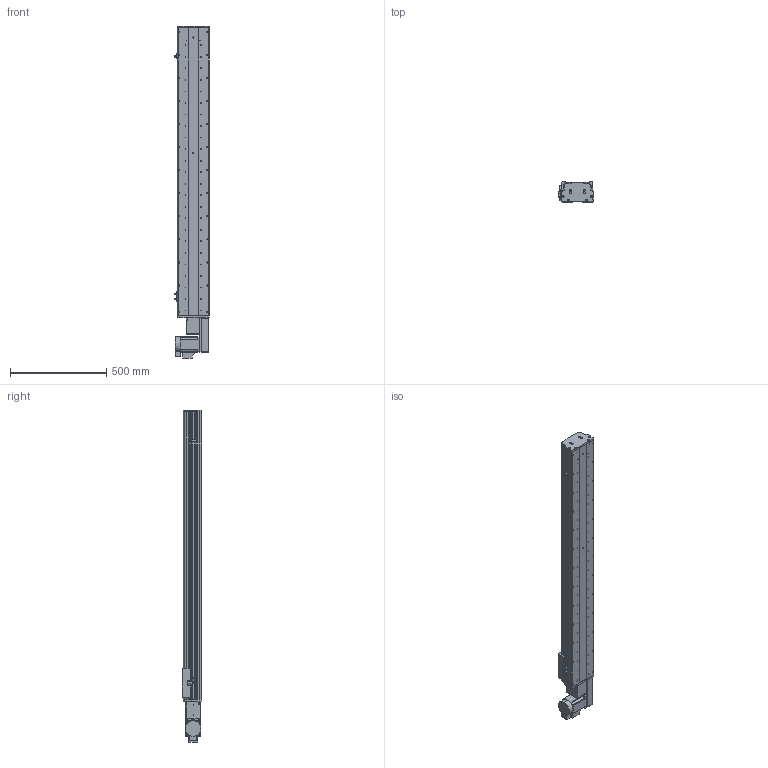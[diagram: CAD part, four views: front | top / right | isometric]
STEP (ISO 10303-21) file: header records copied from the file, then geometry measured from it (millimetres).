
FILE_DESCRIPTION (( 'STEP AP214' ), '1' );
FILE_NAME ('KSD165B-S1250-MRB-CM.STEP', '2017-10-16T09:03:11', ( '微软用户' ), ( '微软中国' ), 'SwSTEP 2.0', 'SolidWorks 2014', '' );
FILE_SCHEMA (( 'AUTOMOTIVE_DESIGN' ));
Length unit declared in the file: millimetre
Products named in the file (17): KSD165B-S1250-MRB-CM; HTPA26S5M250-A-H8 750W萇儂蚚; HTPA26S5M250-A-H8 400W萇儂蚚 ; 130宽模组马达安装板连板左右折同步带; 130宽模组保护罩上下左右折-同步带; KSD165模组-同步带防尘盖1-1250行程; KSD165模组同步带底板-1250行程; 拸秶雄ん750W侜督萇儂; 165宽马达安装板同步带右; U倰嫖萇假蚾璃; U倰嫖萇EEㄜSX672; 覜茼え68遵圉猾敕; KSD165模组-同步带-防撞垫2; KSD165模组同步带-防撞垫1; KSD165耀郪-ヶ傷啣1-肮祭湍; KSD165模组-后端板1-同步带; KSD165模组-同步带滑动座-最新版
Assembly tree (20 placements, depth 2):
  KSD165B-S1250-MRB-CM
    KSD165模组-同步带滑动座-最新版
    KSD165模组-后端板1-同步带
    KSD165耀郪-ヶ傷啣1-肮祭湍
    KSD165模组同步带-防撞垫1
    KSD165模组-同步带-防撞垫2
    覜茼え68遵圉猾敕
    U倰嫖萇EEㄜSX672  x3
    U倰嫖萇假蚾璃  x3
    165宽马达安装板同步带右
    拸秶雄ん750W侜督萇儂
    KSD165模组同步带底板-1250行程
    KSD165模组-同步带防尘盖1-1250行程
    130宽模组保护罩上下左右折-同步带
    130宽模组马达安装板连板左右折同步带
    HTPA26S5M250-A-H8 400W萇儂蚚 
    HTPA26S5M250-A-H8 750W萇儂蚚
Bounding box: 178.7 x 104 x 1727.5 mm (x, y, z)
Volume: 9045048.7 mm3; surface area: 2106262.5 mm2
Topology: 21 solids, 21 shells, 2011 faces, 5688 edges, 3716 vertices
Faces by surface type: cylinder 1307, plane 592, cone 112
Entity records: 65812 total; most frequent: CARTESIAN_POINT 13492, DIRECTION 10772, ORIENTED_EDGE 10036, EDGE_CURVE 5018, AXIS2_PLACEMENT_3D 4234, VERTEX_POINT 3308, CIRCLE 2420, LINE 2304
